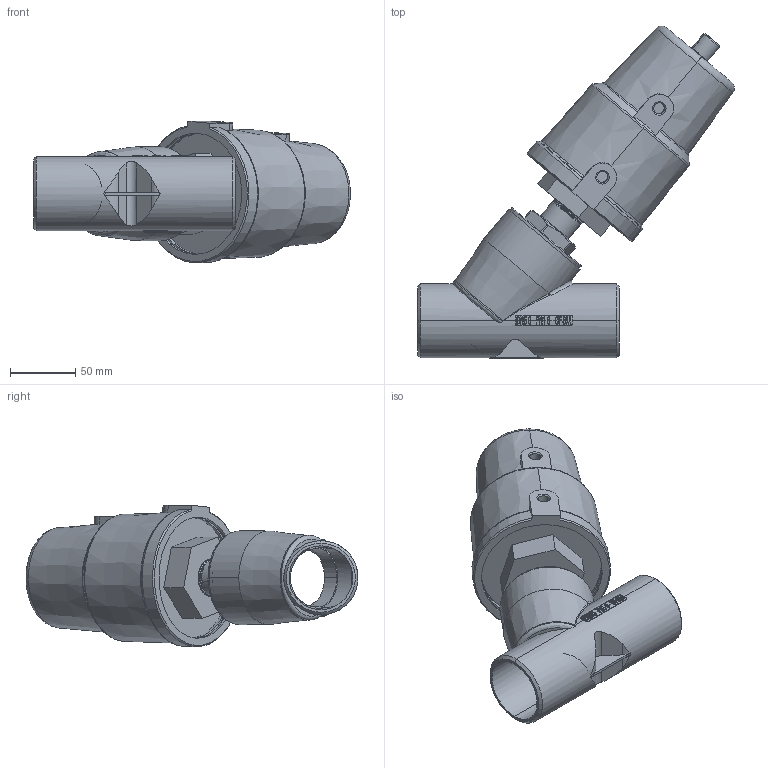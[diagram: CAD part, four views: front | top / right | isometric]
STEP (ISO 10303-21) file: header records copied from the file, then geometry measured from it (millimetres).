
FILE_DESCRIPTION (( 'STEP AP203' ), '1' );
FILE_NAME ('JF10090150.STEP', '2019-03-25T03:38:55', ( 'User' ), ( 'china' ), 'SwSTEP 2.0', 'SolidWorks 2017', '' );
FILE_SCHEMA (( 'CONFIG_CONTROL_DESIGN' ));
Length unit declared in the file: millimetre
Products named in the file (11): 90詰芠; 錨璃弝敦; JF10090150; 6350概极; 905002蟀諉; 90002傷裔
Assembly tree (5 placements, depth 2):
  JF10090150
    6350概极
    905002蟀諉
    90002傷裔
    90詰芠
    錨璃弝敦
  6350概极
  905002蟀諉
  90002傷裔
  90詰芠
Bounding box: 243.44 x 255.04 x 108.48 mm (x, y, z)
Volume: 532156 mm3; surface area: 214612.4 mm2
Topology: 5 solids, 5 shells, 636 faces, 1709 edges, 1107 vertices
Faces by surface type: bspline 233, cylinder 184, plane 121, cone 60, torus 38
Entity records: 104404 total; most frequent: CARTESIAN_POINT 89717, ORIENTED_EDGE 3418, DIRECTION 1983, EDGE_CURVE 1709, VERTEX_POINT 1107, B_SPLINE_CURVE_WITH_KNOTS 927, AXIS2_PLACEMENT_3D 813, EDGE_LOOP 678
